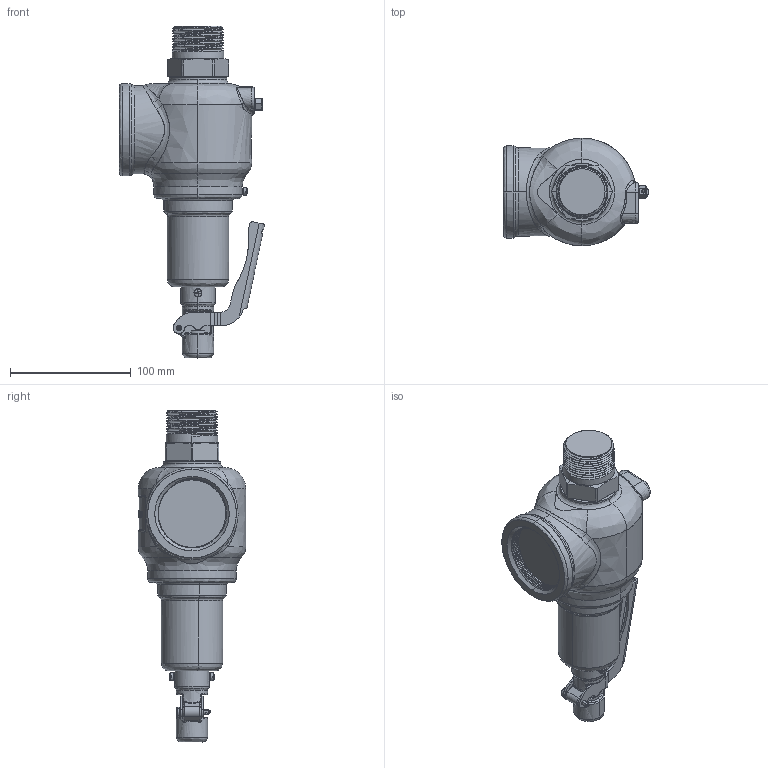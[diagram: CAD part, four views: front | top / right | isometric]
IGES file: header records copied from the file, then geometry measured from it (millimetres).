
Start section: SolidWorks IGES file using NURBS representation for surfaces
Global section: file name: C:\Design\Design\Aquatrol\Customer 3D Files\Series 740 Customer Files\G Orifice\Customer\Iges Files\Series 740 G 1250 x 2000 Open Lever.IGS; native system: SolidWorks 2015; preprocessor: SolidWorks 2015; author: Karl; date: 150515.103350; units: inch
Bounding box: 120.27 x 88.9 x 274.65 mm (x, y, z)
Surface area: 77185.8 mm2 (no closed solid volume)
Topology: 0 solids, 0 shells, 505 faces, 9301 edges, 9299 vertices
Faces by surface type: bspline 505
